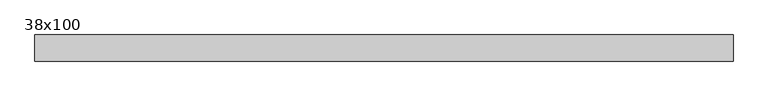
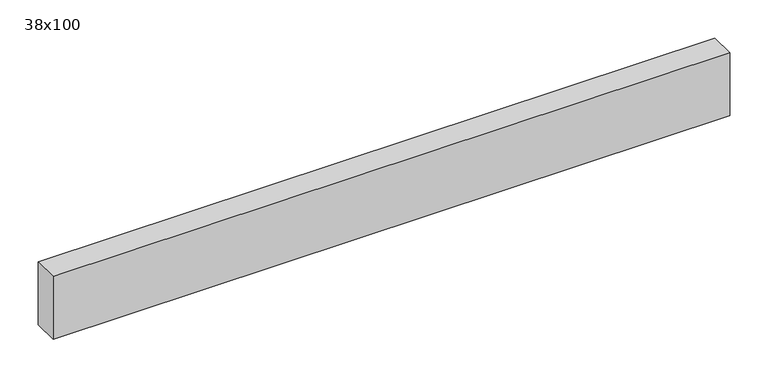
"""IFC4 building model written with IfcOpenShell, lengths in millimetres: beam geometry, Poutre - Bois de construction de dimensions courantes : 38x100."""

from ifc_helpers import new_model, si_unit, frame, origin, place, context, project, spatial, polyline, outline, extrude, source, transform, mapped, element, save


def beam_38x100_ffff60c7(model_context):
    return source(origin(), model_context, "Body", "SweptSolid", [
        extrude(outline(polyline([(452.5, 19.05), (452.5, -19.05), (-564.5, -19.05), (-564.5, 19.05), (452.5, 19.05)])), frame((0.0, 0.0, -50.0), z_axis=(0.0, 0.0, 1.0), x_axis=(1.0, 0.0, 0.0)), (0.0, 0.0, 1.0), 100.0),
    ])


if __name__ == "__main__":
    model = new_model("IFC4")
    model_context = context("Model", 3, world=origin())
    ifc_project = project(units=[si_unit("LENGTHUNIT", "METRE", prefix="MILLI")], contexts=[model_context])
    site = spatial("IfcSite", under=ifc_project)
    building = spatial("IfcBuilding", under=site)
    placement = place(None, origin())
    beam_38x100_shape = beam_38x100_ffff60c7(model_context)
    element("IfcBeam", 1, ObjectType="Poutre - Bois de construction de dimensions courantes : 38x100", at=placement, inside=building, context=model_context, shape_type="MappedRepresentation", body=[
        mapped(beam_38x100_shape, transform((0.0, 0.0, 0.0), x_axis=(1.0, 0.0, 0.0), y_axis=(0.0, 1.0, 0.0), z_axis=(0.0, 0.0, 1.0))),
    ])
    save(model, "model.ifc")
